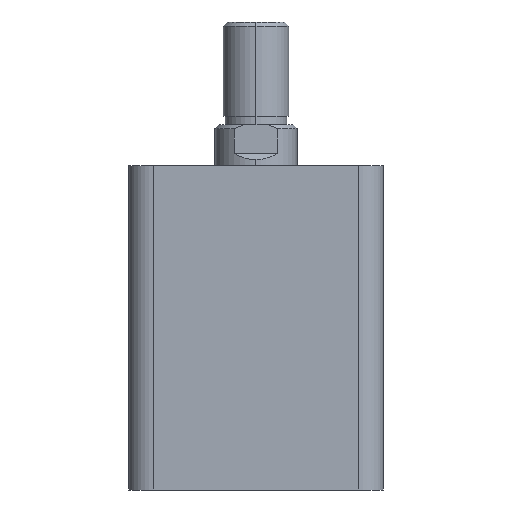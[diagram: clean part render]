
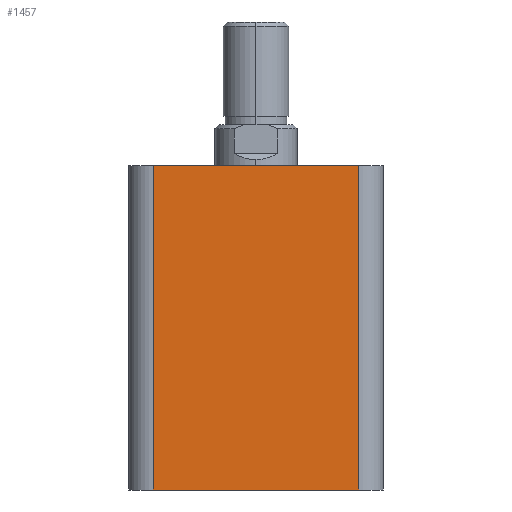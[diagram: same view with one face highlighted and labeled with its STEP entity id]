
A CAD part, left-side view. The second image highlights one B-rep face of the part: STEP entity #1457.
In plain terms, the highlighted planar face has unit normal (-1, 0, 0).
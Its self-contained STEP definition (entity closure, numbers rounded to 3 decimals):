
#486 = FACE_OUTER_BOUND ( 'NONE', #4887, .T. ) ;
#651 = ORIENTED_EDGE ( 'NONE', *, *, #2653, .T. ) ;
#652 = ORIENTED_EDGE ( 'NONE', *, *, #2592, .T. ) ;
#653 = ORIENTED_EDGE ( 'NONE', *, *, #2868, .F. ) ;
#654 = ORIENTED_EDGE ( 'NONE', *, *, #2593, .T. ) ;
#798 = CARTESIAN_POINT ( 'NONE',  ( -31., 31., 79. ) ) ;
#799 = DIRECTION ( 'NONE',  ( 0., -1., 0. ) ) ;
#963 = CARTESIAN_POINT ( 'NONE',  ( -31., -25., 79. ) ) ;
#983 = CARTESIAN_POINT ( 'NONE',  ( -31., 25., 79. ) ) ;
#988 = CARTESIAN_POINT ( 'NONE',  ( -31., 25., 0. ) ) ;
#998 = CARTESIAN_POINT ( 'NONE',  ( -31., -25., 0. ) ) ;
#1457 = ADVANCED_FACE ( 'NONE', ( #486 ), #2129, .F. ) ;
#1576 = VECTOR ( 'NONE', #1718, 1000. ) ;
#1578 = VECTOR ( 'NONE', #1717, 1000. ) ;
#1581 = LINE ( 'NONE', #1716, #1578 ) ;
#1582 = LINE ( 'NONE', #1711, #1576 ) ;
#1711 = CARTESIAN_POINT ( 'NONE',  ( -31., 25., 79. ) ) ;
#1716 = CARTESIAN_POINT ( 'NONE',  ( -31., -25., 79. ) ) ;
#1717 = DIRECTION ( 'NONE',  ( 0., 0., 1. ) ) ;
#1718 = DIRECTION ( 'NONE',  ( 0., 0., -1. ) ) ;
#1951 = CARTESIAN_POINT ( 'NONE',  ( -31., 31., 0. ) ) ;
#1957 = DIRECTION ( 'NONE',  ( 0., -1., 0. ) ) ;
#2123 = DIRECTION ( 'NONE',  ( 0., 0., -1. ) ) ;
#2124 = DIRECTION ( 'NONE',  ( 1., 0., 0. ) ) ;
#2129 = PLANE ( 'NONE',  #2218 ) ;
#2132 = CARTESIAN_POINT ( 'NONE',  ( -31., 31., 79. ) ) ;
#2218 = AXIS2_PLACEMENT_3D ( 'NONE', #2132, #2124, #2123 ) ;
#2592 = EDGE_CURVE ( 'NONE', #3092, #3057, #1581, .T. ) ;
#2593 = EDGE_CURVE ( 'NONE', #3077, #3082, #1582, .T. ) ;
#2653 = EDGE_CURVE ( 'NONE', #3082, #3092, #3245, .T. ) ;
#2868 = EDGE_CURVE ( 'NONE', #3077, #3057, #3685, .T. ) ;
#3057 = VERTEX_POINT ( 'NONE', #963 ) ;
#3077 = VERTEX_POINT ( 'NONE', #983 ) ;
#3082 = VERTEX_POINT ( 'NONE', #988 ) ;
#3092 = VERTEX_POINT ( 'NONE', #998 ) ;
#3245 = LINE ( 'NONE', #1951, #3251 ) ;
#3251 = VECTOR ( 'NONE', #1957, 1000. ) ;
#3685 = LINE ( 'NONE', #798, #3688 ) ;
#3688 = VECTOR ( 'NONE', #799, 1000. ) ;
#4887 = EDGE_LOOP ( 'NONE', ( #651, #652, #653, #654 ) ) ;
